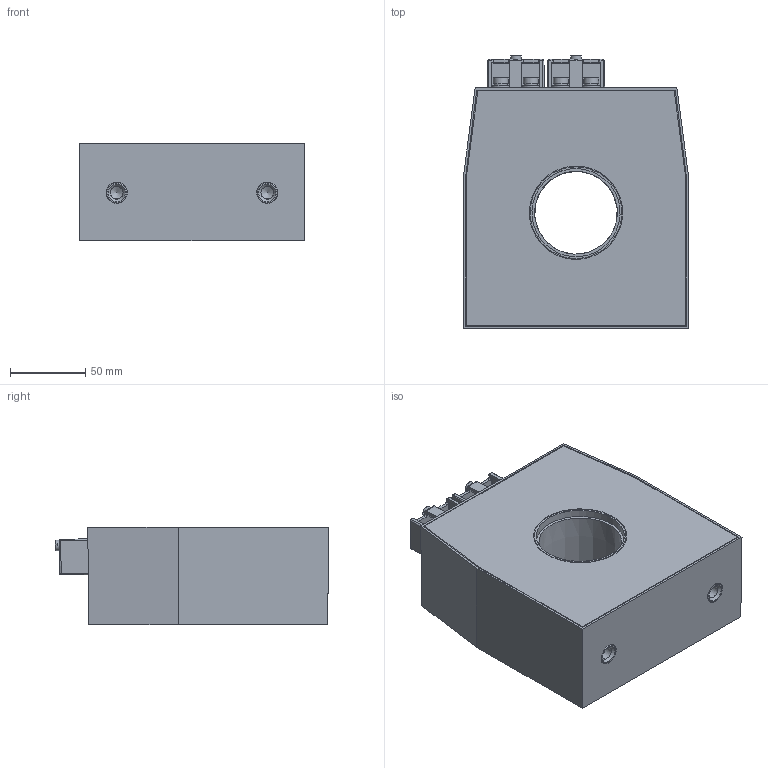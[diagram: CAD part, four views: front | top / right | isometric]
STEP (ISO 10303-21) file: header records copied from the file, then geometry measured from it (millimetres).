
FILE_DESCRIPTION(('STEP AP203'), '1');
FILE_NAME('ÒØÏ-ÍÒÇ-0,66-71À (55 ìì, 1-é ãàáàðèò)', '2025-08-27T09:37:23', ('UNSPECIFIED'), ('UNSPECIFIED'), 'ASCON STEP Converter 1.3', 'ASCON Math Kernel', '');
FILE_SCHEMA(('CONFIG_CONTROL_DESIGN'));
Length unit declared in the file: millimetre
Assembly tree (27 placements, depth 2):
  (unnamed)
    (unnamed)
    (unnamed)
    (unnamed)  x2
    (unnamed)
    (unnamed)  x4
    (unnamed)  x2
    (unnamed)  x4
    (unnamed)  x4
    (unnamed)  x4
    (unnamed)  x2
    (unnamed)  x2
Bounding box: 150 x 181.52 x 65 mm (x, y, z)
Volume: 348852.8 mm3; surface area: 209303.2 mm2
Topology: 27 solids, 27 shells, 404 faces, 889 edges, 549 vertices
Faces by surface type: plane 207, cylinder 112, cone 57, bspline 16, torus 12
Full cylindrical faces by diameter (mm): 3.244 x2, 4 x6, 4.5 x2, 4.8 x4, 4.92 x4, 6 x4, 6.4 x4, 7 x2, 7.1 x4, 8 x2, 8.376 x2, 10 x8, 10.1 x4, 12 x8, 14 x4, 17 x2, 55 x1, 55.05 x1, 58.599 x2, 58.6 x1, 61 x1, 65.05 x1, 68.6 x1
Entity records: 9328 total; most frequent: CARTESIAN_POINT 2143, DIRECTION 970, ORIENTED_EDGE 816, EDGE_CURVE 408, AXIS2_PLACEMENT_3D 368, EDGE_LOOP 307, VERTEX_POINT 293, LINE 234
